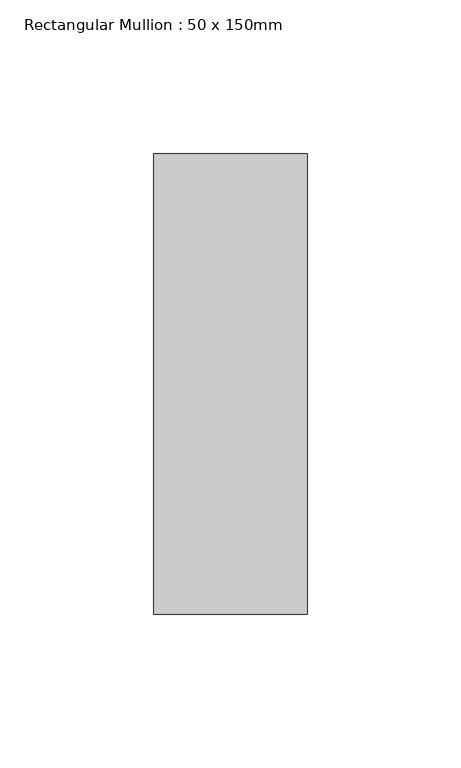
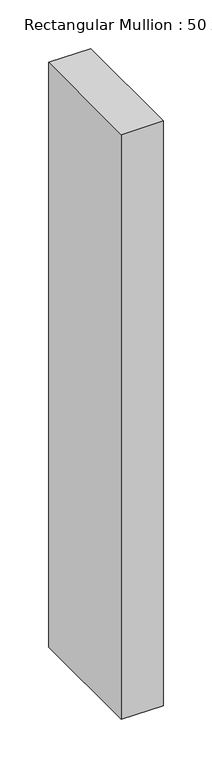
"""IFC4 building model written with IfcOpenShell, lengths in millimetres: member geometry, Rectangular Mullion : 50 x 150mm."""

from ifc_helpers import new_model, si_unit, frame, origin, place, context, project, spatial, polyline, outline, extrude, source, transform, mapped, element, save


def rectangular_mullion_50_x_150mm_08f0ee12(model_context):
    return source(origin(), model_context, "Body", "SweptSolid", [
        extrude(outline(polyline([(0.0, 75.0), (0.0, -75.0), (-50.0, -75.0), (-50.0, 75.0), (0.0, 75.0)])), frame((0.0, 0.0, -735.0), z_axis=(0.0, 0.0, 1.0), x_axis=(1.0, 0.0, 0.0)), (0.0, 0.0, 1.0), 735.0),
    ])


if __name__ == "__main__":
    model = new_model("IFC4")
    model_context = context("Model", 3, world=origin())
    ifc_project = project(units=[si_unit("LENGTHUNIT", "METRE", prefix="MILLI")], contexts=[model_context])
    site = spatial("IfcSite", under=ifc_project)
    building = spatial("IfcBuilding", under=site)
    placement = place(None, origin())
    rectangular_mullion_50_x_150mm_shape = rectangular_mullion_50_x_150mm_08f0ee12(model_context)
    element("IfcMember", 1, ObjectType="Rectangular Mullion : 50 x 150mm", at=placement, inside=building, context=model_context, shape_type="MappedRepresentation", body=[
        mapped(rectangular_mullion_50_x_150mm_shape, transform((0.0, 0.0, 0.0), x_axis=(1.0, 0.0, 0.0), y_axis=(0.0, 1.0, 0.0), z_axis=(0.0, 0.0, 1.0))),
    ])
    save(model, "model.ifc")
